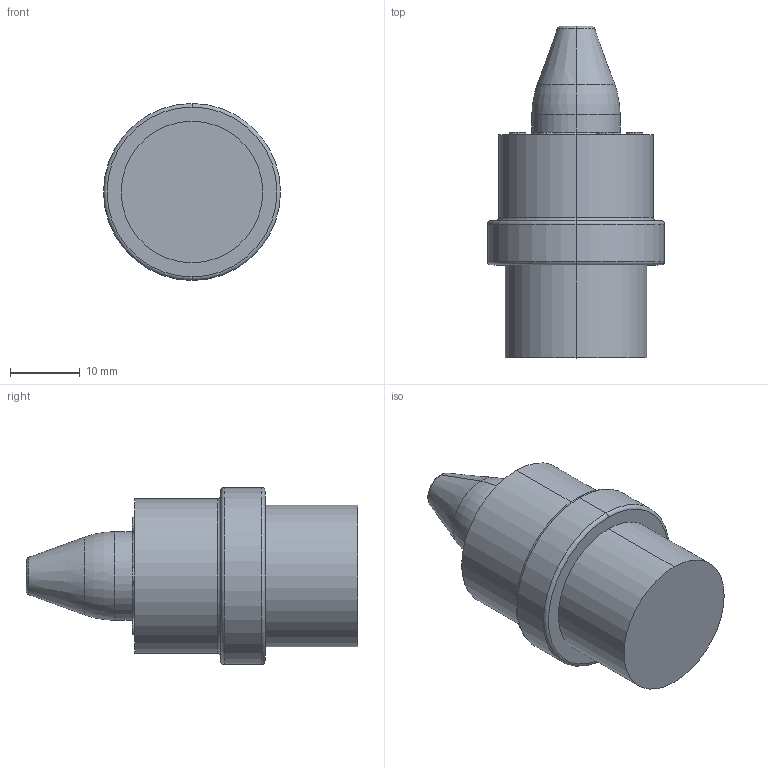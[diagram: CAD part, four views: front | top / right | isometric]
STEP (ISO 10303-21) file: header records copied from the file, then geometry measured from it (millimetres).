
FILE_DESCRIPTION (( 'STEP AP214' ), '1' );
FILE_NAME ('PA-.500-.100-P-W.stp', '2020-05-01T17:47:51', ( '' ), ( '' ), 'SwSTEP 2.0', 'SolidWorks 2017', '' );
FILE_SCHEMA (( 'AUTOMOTIVE_DESIGN' ));
Length unit declared in the file: inch
Products named in the file (1): PA-.500-.100-P-W
Bounding box: 25.4 x 47.62 x 25.4 mm (x, y, z)
Volume: 13657.8 mm3; surface area: 3600.2 mm2
Topology: 1 solids, 1 shells, 45 faces, 88 edges, 54 vertices
Faces by surface type: cylinder 20, torus 12, plane 11, cone 2
Entity records: 1216 total; most frequent: DIRECTION 246, CARTESIAN_POINT 188, ORIENTED_EDGE 176, AXIS2_PLACEMENT_3D 112, EDGE_CURVE 88, CIRCLE 66, VERTEX_POINT 54, EDGE_LOOP 54
